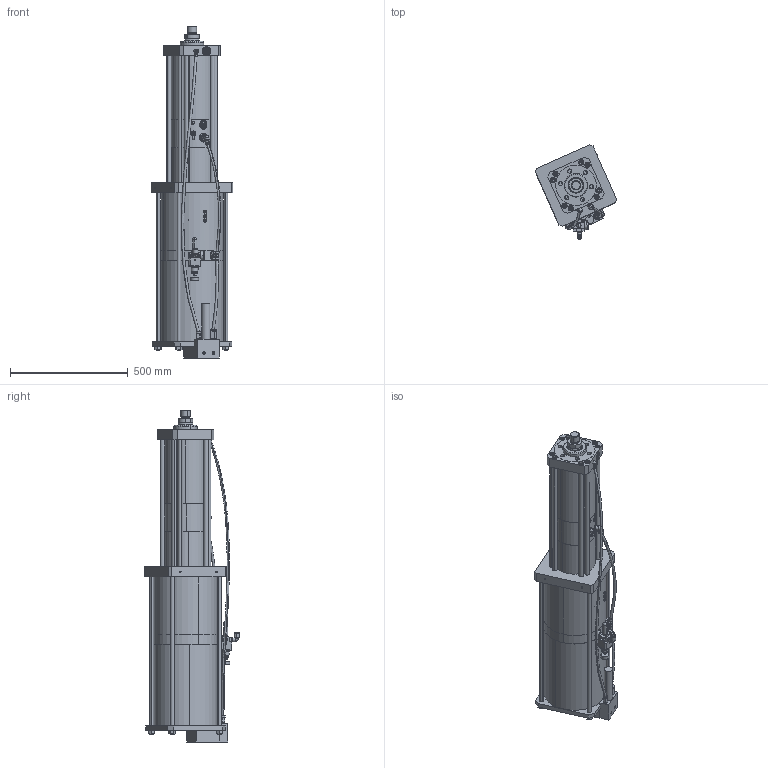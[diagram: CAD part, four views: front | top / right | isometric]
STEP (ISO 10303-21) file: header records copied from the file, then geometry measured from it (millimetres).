
FILE_DESCRIPTION (( 'STEP AP203' ), '1' );
FILE_NAME ('BS30-200-24A.step', '2025-07-31T09:40:24', ( 'Ranlm' ), ( '' ), 'SwSTEP 2.0', 'SolidWorks 2022', '' );
FILE_SCHEMA (( 'CONFIG_CONTROL_DESIGN' ));
Length unit declared in the file: millimetre
Products named in the file (1): BS30-200-24A
Bounding box: 345.52 x 400.08 x 1408 mm (x, y, z)
Surface area: 1916176.7 mm2 (no closed solid volume)
Topology: 0 solids, 79 shells, 728 faces, 2056 edges, 1413 vertices
Faces by surface type: plane 334, cylinder 262, cone 65, torus 48, bspline 16, sphere 3
Entity records: 26185 total; most frequent: CARTESIAN_POINT 6984, DIRECTION 4275, ORIENTED_EDGE 3394, EDGE_CURVE 2046, AXIS2_PLACEMENT_3D 1643, VERTEX_POINT 1410, LINE 989, VECTOR 989
